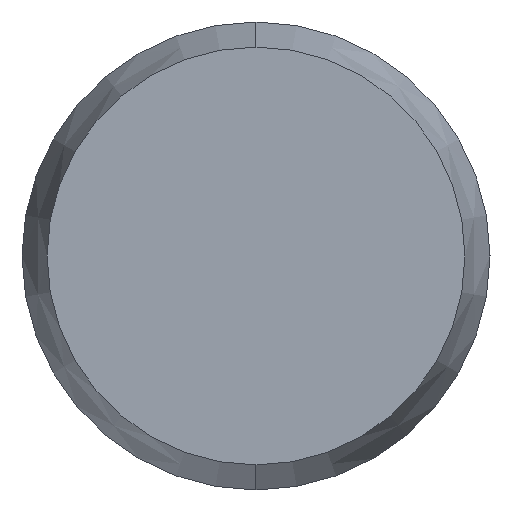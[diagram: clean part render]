
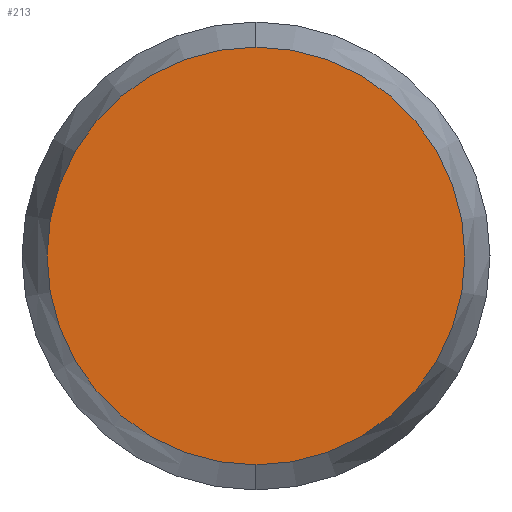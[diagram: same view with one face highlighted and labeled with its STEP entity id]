
A CAD part, left-side view. The second image highlights one B-rep face of the part: STEP entity #213.
In plain terms, the highlighted planar face has unit normal (-1, 0, 0).
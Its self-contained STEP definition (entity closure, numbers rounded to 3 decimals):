
#126 = CARTESIAN_POINT ( 'NONE',  ( -4., 0., -0.67 ) ) ;
#127 = CARTESIAN_POINT ( 'NONE',  ( -4., 0., 0.67 ) ) ;
#128 = DIRECTION ( 'NONE',  ( 0., 0., -1. ) ) ;
#129 = DIRECTION ( 'NONE',  ( 1., 0., 0. ) ) ;
#130 = CARTESIAN_POINT ( 'NONE',  ( -4., 0., 0. ) ) ;
#131 = AXIS2_PLACEMENT_3D ( 'NONE', #130, #129, #128 ) ;
#135 = CIRCLE ( 'NONE', #131, 0.67 ) ;
#197 = DIRECTION ( 'NONE',  ( 0., 0., -1. ) ) ;
#198 = DIRECTION ( 'NONE',  ( 1., 0., 0. ) ) ;
#199 = CARTESIAN_POINT ( 'NONE',  ( -4., 0., 0. ) ) ;
#200 = AXIS2_PLACEMENT_3D ( 'NONE', #199, #198, #197 ) ;
#201 = CIRCLE ( 'NONE', #200, 0.67 ) ;
#203 = DIRECTION ( 'NONE',  ( 0., 0., -1. ) ) ;
#204 = DIRECTION ( 'NONE',  ( 1., 0., 0. ) ) ;
#205 = CARTESIAN_POINT ( 'NONE',  ( -4., 0., 0. ) ) ;
#206 = AXIS2_PLACEMENT_3D ( 'NONE', #205, #204, #203 ) ;
#207 = PLANE ( 'NONE',  #206 ) ;
#208 = FACE_OUTER_BOUND ( 'NONE', #221, .T. ) ;
#209 = ORIENTED_EDGE ( 'NONE', *, *, #237, .F. ) ;
#210 = ORIENTED_EDGE ( 'NONE', *, *, #215, .F. ) ;
#213 = ADVANCED_FACE ( 'NONE', ( #208 ), #207, .F. ) ;
#215 = EDGE_CURVE ( 'NONE', #239, #238, #201, .T. ) ;
#221 = EDGE_LOOP ( 'NONE', ( #209, #210 ) ) ;
#237 = EDGE_CURVE ( 'NONE', #238, #239, #135, .T. ) ;
#238 = VERTEX_POINT ( 'NONE', #127 ) ;
#239 = VERTEX_POINT ( 'NONE', #126 ) ;
